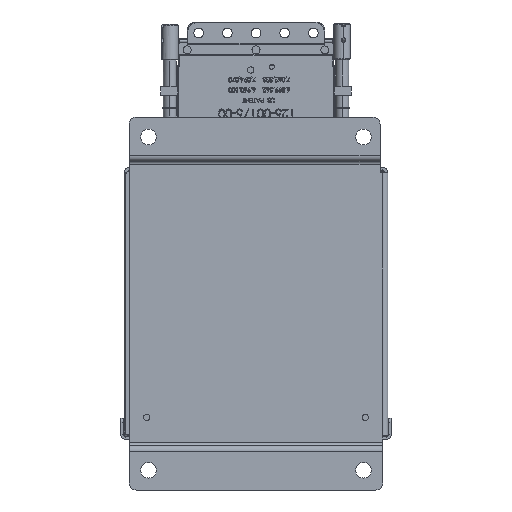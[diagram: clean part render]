
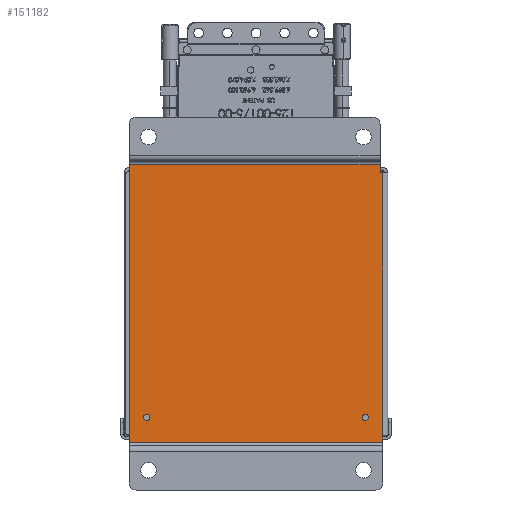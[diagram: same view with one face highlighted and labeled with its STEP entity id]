
A CAD part, front view. The second image highlights one B-rep face of the part: STEP entity #151182.
In plain terms, the highlighted planar face has unit normal (0, -1, 0).
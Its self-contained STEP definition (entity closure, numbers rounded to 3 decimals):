
#394 = DIRECTION ( 'NONE',  ( 0., 1., 0. ) ) ;
#1182 = ORIENTED_EDGE ( 'NONE', *, *, #34641, .T. ) ;
#1608 = CIRCLE ( 'NONE', #155958, 1.13 ) ;
#2112 = DIRECTION ( 'NONE',  ( -0.547, 0., 0.837 ) ) ;
#2878 = CARTESIAN_POINT ( 'NONE',  ( -51.222, -19.984, 222.732 ) ) ;
#3174 = ORIENTED_EDGE ( 'NONE', *, *, #177062, .T. ) ;
#3393 = DIRECTION ( 'NONE',  ( -0.547, 0., 0.837 ) ) ;
#3564 = LINE ( 'NONE', #148133, #137139 ) ;
#4866 = CARTESIAN_POINT ( 'NONE',  ( -44.974, -19.984, 132.981 ) ) ;
#6334 = EDGE_LOOP ( 'NONE', ( #36645, #133024 ) ) ;
#8126 = ORIENTED_EDGE ( 'NONE', *, *, #169470, .F. ) ;
#8848 = AXIS2_PLACEMENT_3D ( 'NONE', #93986, #11487, #107907 ) ;
#11487 = DIRECTION ( 'NONE',  ( 0., -1., 0. ) ) ;
#15625 = CARTESIAN_POINT ( 'NONE',  ( 38.745, -19.984, 126.53 ) ) ;
#18802 = DIRECTION ( 'NONE',  ( -0.547, 0., 0.837 ) ) ;
#25782 = VERTEX_POINT ( 'NONE', #44552 ) ;
#25892 = VERTEX_POINT ( 'NONE', #157729 ) ;
#26029 = ORIENTED_EDGE ( 'NONE', *, *, #39569, .F. ) ;
#26737 = CIRCLE ( 'NONE', #8848, 1.13 ) ;
#27471 = VERTEX_POINT ( 'NONE', #48558 ) ;
#27609 = ORIENTED_EDGE ( 'NONE', *, *, #176948, .T. ) ;
#29542 = LINE ( 'NONE', #123231, #38207 ) ;
#30896 = VECTOR ( 'NONE', #125067, 1000. ) ;
#31629 = DIRECTION ( 'NONE',  ( 0., 0., 1. ) ) ;
#31630 = ORIENTED_EDGE ( 'NONE', *, *, #66922, .T. ) ;
#34641 = EDGE_CURVE ( 'NONE', #25782, #27471, #163979, .T. ) ;
#34841 = CARTESIAN_POINT ( 'NONE',  ( 33.115, -19.984, 132.035 ) ) ;
#36645 = ORIENTED_EDGE ( 'NONE', *, *, #131694, .F. ) ;
#38207 = VECTOR ( 'NONE', #109412, 1000. ) ;
#39569 = EDGE_CURVE ( 'NONE', #74385, #111338, #3564, .T. ) ;
#41533 = EDGE_CURVE ( 'NONE', #67815, #174000, #162571, .T. ) ;
#42263 = CIRCLE ( 'NONE', #119348, 1.13 ) ;
#44552 = CARTESIAN_POINT ( 'NONE',  ( -51.222, -19.984, 124.054 ) ) ;
#47326 = ORIENTED_EDGE ( 'NONE', *, *, #88834, .T. ) ;
#47393 = EDGE_CURVE ( 'NONE', #52517, #140344, #47488, .T. ) ;
#47488 = CIRCLE ( 'NONE', #55627, 1.13 ) ;
#48558 = CARTESIAN_POINT ( 'NONE',  ( 38.745, -19.984, 124.054 ) ) ;
#52517 = VERTEX_POINT ( 'NONE', #163963 ) ;
#52586 = VECTOR ( 'NONE', #161536, 1000. ) ;
#55627 = AXIS2_PLACEMENT_3D ( 'NONE', #167112, #84561, #2112 ) ;
#64178 = VECTOR ( 'NONE', #80386, 1000. ) ;
#64706 = EDGE_LOOP ( 'NONE', ( #31630, #1182, #47326, #26029, #27609, #3174, #71147 ) ) ;
#66537 = CARTESIAN_POINT ( 'NONE',  ( 38.745, -19.984, 126.53 ) ) ;
#66922 = EDGE_CURVE ( 'NONE', #67815, #25782, #177374, .T. ) ;
#67815 = VERTEX_POINT ( 'NONE', #2878 ) ;
#71147 = ORIENTED_EDGE ( 'NONE', *, *, #41533, .F. ) ;
#73629 = AXIS2_PLACEMENT_3D ( 'NONE', #123894, #394, #96798 ) ;
#74385 = VERTEX_POINT ( 'NONE', #150956 ) ;
#79472 = DIRECTION ( 'NONE',  ( 0., 0., -1. ) ) ;
#80386 = DIRECTION ( 'NONE',  ( 0., 0., 1. ) ) ;
#80948 = CARTESIAN_POINT ( 'NONE',  ( -44.355, -19.984, 132.035 ) ) ;
#82846 = PLANE ( 'NONE',  #73629 ) ;
#84561 = DIRECTION ( 'NONE',  ( 0., -1., 0. ) ) ;
#85456 = LINE ( 'NONE', #114142, #158798 ) ;
#85882 = DIRECTION ( 'NONE',  ( 0., -1., 0. ) ) ;
#86489 = FACE_OUTER_BOUND ( 'NONE', #64706, .T. ) ;
#88834 = EDGE_CURVE ( 'NONE', #27471, #111338, #165450, .T. ) ;
#90779 = VECTOR ( 'NONE', #94049, 1000. ) ;
#93443 = CARTESIAN_POINT ( 'NONE',  ( -51.959, -19.984, 124.054 ) ) ;
#93986 = CARTESIAN_POINT ( 'NONE',  ( 32.496, -19.984, 132.981 ) ) ;
#94049 = DIRECTION ( 'NONE',  ( 1., 0., 0. ) ) ;
#96798 = DIRECTION ( 'NONE',  ( -1., 0., 0. ) ) ;
#101266 = DIRECTION ( 'NONE',  ( 0., -1., 0. ) ) ;
#106196 = CARTESIAN_POINT ( 'NONE',  ( -51.959, -19.984, 222.732 ) ) ;
#107907 = DIRECTION ( 'NONE',  ( -0.547, 0., 0.837 ) ) ;
#109412 = DIRECTION ( 'NONE',  ( -1., 0., 0. ) ) ;
#111338 = VERTEX_POINT ( 'NONE', #15625 ) ;
#114142 = CARTESIAN_POINT ( 'NONE',  ( 37.754, -19.984, 219.773 ) ) ;
#119348 = AXIS2_PLACEMENT_3D ( 'NONE', #4866, #101266, #18802 ) ;
#122079 = VERTEX_POINT ( 'NONE', #80948 ) ;
#123231 = CARTESIAN_POINT ( 'NONE',  ( -51.959, -19.984, 219.773 ) ) ;
#123894 = CARTESIAN_POINT ( 'NONE',  ( -51.959, -19.984, 221.526 ) ) ;
#125067 = DIRECTION ( 'NONE',  ( 0., 0., -1. ) ) ;
#131694 = EDGE_CURVE ( 'NONE', #161672, #122079, #1608, .T. ) ;
#133024 = ORIENTED_EDGE ( 'NONE', *, *, #178779, .F. ) ;
#137139 = VECTOR ( 'NONE', #79472, 1000. ) ;
#138252 = CARTESIAN_POINT ( 'NONE',  ( -51.222, -19.984, 221.526 ) ) ;
#140318 = CARTESIAN_POINT ( 'NONE',  ( 37.754, -19.984, 222.732 ) ) ;
#140344 = VERTEX_POINT ( 'NONE', #34841 ) ;
#148133 = CARTESIAN_POINT ( 'NONE',  ( 38.745, -19.984, 126.53 ) ) ;
#150956 = CARTESIAN_POINT ( 'NONE',  ( 38.745, -19.984, 219.773 ) ) ;
#151182 = ADVANCED_FACE ( 'NONE', ( #86489, #164114, #159833 ), #82846, .F. ) ;
#152161 = CARTESIAN_POINT ( 'NONE',  ( -45.592, -19.984, 133.928 ) ) ;
#155958 = AXIS2_PLACEMENT_3D ( 'NONE', #168392, #85882, #3393 ) ;
#157729 = CARTESIAN_POINT ( 'NONE',  ( 37.754, -19.984, 219.773 ) ) ;
#158798 = VECTOR ( 'NONE', #31629, 1000. ) ;
#159833 = FACE_BOUND ( 'NONE', #6334, .T. ) ;
#161536 = DIRECTION ( 'NONE',  ( 1., 0., 0. ) ) ;
#161672 = VERTEX_POINT ( 'NONE', #152161 ) ;
#162571 = LINE ( 'NONE', #106196, #52586 ) ;
#163963 = CARTESIAN_POINT ( 'NONE',  ( 31.878, -19.984, 133.928 ) ) ;
#163979 = LINE ( 'NONE', #93443, #90779 ) ;
#164114 = FACE_BOUND ( 'NONE', #174821, .T. ) ;
#165450 = LINE ( 'NONE', #66537, #64178 ) ;
#167112 = CARTESIAN_POINT ( 'NONE',  ( 32.496, -19.984, 132.981 ) ) ;
#168089 = ORIENTED_EDGE ( 'NONE', *, *, #47393, .F. ) ;
#168392 = CARTESIAN_POINT ( 'NONE',  ( -44.974, -19.984, 132.981 ) ) ;
#169470 = EDGE_CURVE ( 'NONE', #140344, #52517, #26737, .T. ) ;
#174000 = VERTEX_POINT ( 'NONE', #140318 ) ;
#174821 = EDGE_LOOP ( 'NONE', ( #168089, #8126 ) ) ;
#176948 = EDGE_CURVE ( 'NONE', #74385, #25892, #29542, .T. ) ;
#177062 = EDGE_CURVE ( 'NONE', #25892, #174000, #85456, .T. ) ;
#177374 = LINE ( 'NONE', #138252, #30896 ) ;
#178779 = EDGE_CURVE ( 'NONE', #122079, #161672, #42263, .T. ) ;
